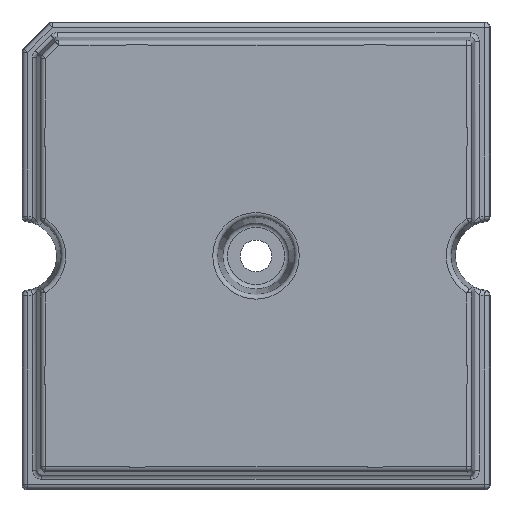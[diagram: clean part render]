
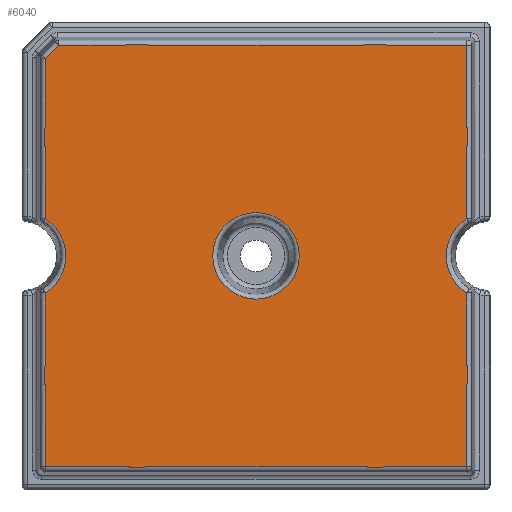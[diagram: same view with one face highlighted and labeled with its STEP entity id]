
A CAD part, top view. The second image highlights one B-rep face of the part: STEP entity #6040.
In plain terms, the highlighted planar face has unit normal (0, 0, 1).
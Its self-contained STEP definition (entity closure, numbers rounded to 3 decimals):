
#551=LINE('',#11641,#886);
#552=LINE('',#11646,#887);
#553=LINE('',#11647,#888);
#554=LINE('',#11651,#889);
#555=LINE('',#11652,#890);
#556=LINE('',#11654,#891);
#557=LINE('',#11655,#892);
#558=LINE('',#11656,#893);
#559=LINE('',#11658,#894);
#560=LINE('',#11659,#895);
#561=LINE('',#11663,#896);
#562=LINE('',#11664,#897);
#563=LINE('',#11666,#898);
#564=LINE('',#11667,#899);
#565=LINE('',#11668,#900);
#886=VECTOR('',#8065,1000.);
#887=VECTOR('',#8072,1000.);
#888=VECTOR('',#8073,1000.);
#889=VECTOR('',#8080,1000.);
#890=VECTOR('',#8081,1000.);
#891=VECTOR('',#8084,1000.);
#892=VECTOR('',#8085,1000.);
#893=VECTOR('',#8086,1000.);
#894=VECTOR('',#8089,1000.);
#895=VECTOR('',#8090,1000.);
#896=VECTOR('',#8097,1000.);
#897=VECTOR('',#8098,1000.);
#898=VECTOR('',#8101,1000.);
#899=VECTOR('',#8102,1000.);
#900=VECTOR('',#8103,1000.);
#1072=PLANE('',#6626);
#1102=CIRCLE('',#6124,9.9);
#1103=CIRCLE('',#6126,9.9);
#1104=CIRCLE('',#6128,9.9);
#1105=CIRCLE('',#6130,9.9);
#1106=CIRCLE('',#6132,9.9);
#1107=CIRCLE('',#6134,9.9);
#1108=CIRCLE('',#6136,9.9);
#1109=CIRCLE('',#6138,9.9);
#1286=CIRCLE('',#6615,4.623);
#1287=CIRCLE('',#6618,4.678);
#1288=CIRCLE('',#6623,4.678);
#2983=ORIENTED_EDGE('',*,*,#3886,.T.);
#2984=ORIENTED_EDGE('',*,*,#3159,.F.);
#2985=ORIENTED_EDGE('',*,*,#3887,.T.);
#2986=ORIENTED_EDGE('',*,*,#3885,.T.);
#2987=ORIENTED_EDGE('',*,*,#3883,.T.);
#2988=ORIENTED_EDGE('',*,*,#3167,.F.);
#2989=ORIENTED_EDGE('',*,*,#3884,.T.);
#2990=ORIENTED_EDGE('',*,*,#3896,.T.);
#2991=ORIENTED_EDGE('',*,*,#3165,.F.);
#2992=ORIENTED_EDGE('',*,*,#3898,.T.);
#2993=ORIENTED_EDGE('',*,*,#3155,.F.);
#2994=ORIENTED_EDGE('',*,*,#3897,.T.);
#2995=ORIENTED_EDGE('',*,*,#3881,.T.);
#2996=ORIENTED_EDGE('',*,*,#3894,.T.);
#2997=ORIENTED_EDGE('',*,*,#3153,.F.);
#2998=ORIENTED_EDGE('',*,*,#3895,.T.);
#2999=ORIENTED_EDGE('',*,*,#3893,.T.);
#3000=ORIENTED_EDGE('',*,*,#3891,.T.);
#3001=ORIENTED_EDGE('',*,*,#3163,.F.);
#3002=ORIENTED_EDGE('',*,*,#3892,.T.);
#3003=ORIENTED_EDGE('',*,*,#3889,.T.);
#3004=ORIENTED_EDGE('',*,*,#3161,.F.);
#3005=ORIENTED_EDGE('',*,*,#3888,.T.);
#3006=ORIENTED_EDGE('',*,*,#3157,.F.);
#3007=ORIENTED_EDGE('',*,*,#3890,.T.);
#3008=ORIENTED_EDGE('',*,*,#3882,.T.);
#3153=EDGE_CURVE('',#3996,#3995,#1102,.F.);
#3155=EDGE_CURVE('',#3998,#3997,#1103,.F.);
#3157=EDGE_CURVE('',#4000,#3999,#1104,.F.);
#3159=EDGE_CURVE('',#4002,#4001,#1105,.F.);
#3161=EDGE_CURVE('',#4004,#4003,#1106,.F.);
#3163=EDGE_CURVE('',#4006,#4005,#1107,.F.);
#3165=EDGE_CURVE('',#4008,#4007,#1108,.F.);
#3167=EDGE_CURVE('',#4010,#4009,#1109,.F.);
#3881=EDGE_CURVE('',#4452,#4451,#551,.T.);
#3882=EDGE_CURVE('',#4458,#4458,#1286,.F.);
#3883=EDGE_CURVE('',#4457,#4009,#552,.T.);
#3884=EDGE_CURVE('',#4010,#4456,#553,.T.);
#3885=EDGE_CURVE('',#4453,#4457,#1287,.F.);
#3886=EDGE_CURVE('',#4454,#4001,#554,.T.);
#3887=EDGE_CURVE('',#4002,#4453,#555,.T.);
#3888=EDGE_CURVE('',#4004,#3999,#556,.T.);
#3889=EDGE_CURVE('',#4455,#4003,#557,.T.);
#3890=EDGE_CURVE('',#4000,#4454,#558,.T.);
#3891=EDGE_CURVE('',#4449,#4005,#559,.T.);
#3892=EDGE_CURVE('',#4006,#4455,#560,.T.);
#3893=EDGE_CURVE('',#4450,#4449,#1288,.F.);
#3894=EDGE_CURVE('',#4451,#3995,#561,.T.);
#3895=EDGE_CURVE('',#3996,#4450,#562,.T.);
#3896=EDGE_CURVE('',#4456,#4007,#563,.T.);
#3897=EDGE_CURVE('',#3998,#4452,#564,.T.);
#3898=EDGE_CURVE('',#4008,#3997,#565,.T.);
#3995=VERTEX_POINT('',#8618);
#3996=VERTEX_POINT('',#8619);
#3997=VERTEX_POINT('',#8626);
#3998=VERTEX_POINT('',#8627);
#3999=VERTEX_POINT('',#8634);
#4000=VERTEX_POINT('',#8635);
#4001=VERTEX_POINT('',#8642);
#4002=VERTEX_POINT('',#8643);
#4003=VERTEX_POINT('',#8650);
#4004=VERTEX_POINT('',#8651);
#4005=VERTEX_POINT('',#8658);
#4006=VERTEX_POINT('',#8659);
#4007=VERTEX_POINT('',#8666);
#4008=VERTEX_POINT('',#8667);
#4009=VERTEX_POINT('',#8674);
#4010=VERTEX_POINT('',#8675);
#4449=VERTEX_POINT('',#11596);
#4450=VERTEX_POINT('',#11600);
#4451=VERTEX_POINT('',#11606);
#4452=VERTEX_POINT('',#11610);
#4453=VERTEX_POINT('',#11616);
#4454=VERTEX_POINT('',#11622);
#4455=VERTEX_POINT('',#11628);
#4456=VERTEX_POINT('',#11632);
#4457=VERTEX_POINT('',#11638);
#4458=VERTEX_POINT('',#11644);
#5167=EDGE_LOOP('',(#2983,#2984,#2985,#2986,#2987,#2988,#2989,#2990,#2991,
#2992,#2993,#2994,#2995,#2996,#2997,#2998,#2999,#3000,#3001,#3002,#3003,
#3004,#3005,#3006,#3007));
#5168=EDGE_LOOP('',(#3008));
#5619=FACE_BOUND('',#5167,.T.);
#5620=FACE_BOUND('',#5168,.T.);
#6040=ADVANCED_FACE('',(#5619,#5620),#1072,.T.);
#6124=AXIS2_PLACEMENT_3D('',#8620,#6807,#6808);
#6126=AXIS2_PLACEMENT_3D('',#8628,#6811,#6812);
#6128=AXIS2_PLACEMENT_3D('',#8636,#6815,#6816);
#6130=AXIS2_PLACEMENT_3D('',#8644,#6819,#6820);
#6132=AXIS2_PLACEMENT_3D('',#8652,#6823,#6824);
#6134=AXIS2_PLACEMENT_3D('',#8660,#6827,#6828);
#6136=AXIS2_PLACEMENT_3D('',#8668,#6831,#6832);
#6138=AXIS2_PLACEMENT_3D('',#8676,#6835,#6836);
#6615=AXIS2_PLACEMENT_3D('',#11643,#8068,#8069);
#6618=AXIS2_PLACEMENT_3D('',#11649,#8076,#8077);
#6623=AXIS2_PLACEMENT_3D('',#11661,#8093,#8094);
#6626=AXIS2_PLACEMENT_3D('',#11669,#8104,#8105);
#6807=DIRECTION('',(0.,0.,1.));
#6808=DIRECTION('',(1.,0.,0.));
#6811=DIRECTION('',(0.,0.,1.));
#6812=DIRECTION('',(1.,0.,0.));
#6815=DIRECTION('',(0.,0.,1.));
#6816=DIRECTION('',(1.,0.,0.));
#6819=DIRECTION('',(0.,0.,1.));
#6820=DIRECTION('',(1.,0.,0.));
#6823=DIRECTION('',(0.,0.,1.));
#6824=DIRECTION('',(1.,0.,0.));
#6827=DIRECTION('',(0.,0.,1.));
#6828=DIRECTION('',(1.,0.,0.));
#6831=DIRECTION('',(0.,0.,1.));
#6832=DIRECTION('',(1.,0.,0.));
#6835=DIRECTION('',(0.,0.,1.));
#6836=DIRECTION('',(1.,0.,0.));
#8065=DIRECTION('',(-0.707,-0.707,0.));
#8068=DIRECTION('',(0.,0.,1.));
#8069=DIRECTION('',(1.,0.,0.));
#8072=DIRECTION('',(0.,1.,0.));
#8073=DIRECTION('',(0.,1.,0.));
#8076=DIRECTION('',(0.,0.,1.));
#8077=DIRECTION('',(1.,0.,0.));
#8080=DIRECTION('',(0.,1.,0.));
#8081=DIRECTION('',(0.,1.,0.));
#8084=DIRECTION('',(1.,0.,0.));
#8085=DIRECTION('',(1.,0.,0.));
#8086=DIRECTION('',(1.,0.,0.));
#8089=DIRECTION('',(0.,-1.,0.));
#8090=DIRECTION('',(0.,-1.,0.));
#8093=DIRECTION('',(0.,0.,1.));
#8094=DIRECTION('',(1.,0.,0.));
#8097=DIRECTION('',(0.,-1.,0.));
#8098=DIRECTION('',(0.,-1.,0.));
#8101=DIRECTION('',(-1.,0.,0.));
#8102=DIRECTION('',(-1.,0.,0.));
#8103=DIRECTION('',(-1.,0.,0.));
#8104=DIRECTION('',(0.,0.,1.));
#8105=DIRECTION('',(0.,-1.,0.));
#8618=CARTESIAN_POINT('',(-22.522,13.937,9.6));
#8619=CARTESIAN_POINT('',(-22.522,11.463,9.6));
#8620=CARTESIAN_POINT('',(-12.7,12.7,9.6));
#8626=CARTESIAN_POINT('',(-11.461,22.522,9.6));
#8627=CARTESIAN_POINT('',(-13.939,22.522,9.6));
#8628=CARTESIAN_POINT('',(-12.7,12.7,9.6));
#8634=CARTESIAN_POINT('',(11.465,-22.522,9.6));
#8635=CARTESIAN_POINT('',(13.935,-22.522,9.6));
#8636=CARTESIAN_POINT('',(12.7,-12.7,9.6));
#8642=CARTESIAN_POINT('',(22.522,-13.937,9.6));
#8643=CARTESIAN_POINT('',(22.522,-11.463,9.6));
#8644=CARTESIAN_POINT('',(12.7,-12.7,9.6));
#8650=CARTESIAN_POINT('',(-13.935,-22.522,9.6));
#8651=CARTESIAN_POINT('',(-11.465,-22.522,9.6));
#8652=CARTESIAN_POINT('',(-12.7,-12.7,9.6));
#8658=CARTESIAN_POINT('',(-22.522,-11.463,9.6));
#8659=CARTESIAN_POINT('',(-22.522,-13.937,9.6));
#8660=CARTESIAN_POINT('',(-12.7,-12.7,9.6));
#8666=CARTESIAN_POINT('',(13.939,22.522,9.6));
#8667=CARTESIAN_POINT('',(11.461,22.522,9.6));
#8668=CARTESIAN_POINT('',(12.7,12.7,9.6));
#8674=CARTESIAN_POINT('',(22.522,11.463,9.6));
#8675=CARTESIAN_POINT('',(22.522,13.937,9.6));
#8676=CARTESIAN_POINT('',(12.7,12.7,9.6));
#11596=CARTESIAN_POINT('',(-22.522,-3.968,9.6));
#11600=CARTESIAN_POINT('',(-22.522,3.968,9.6));
#11606=CARTESIAN_POINT('',(-22.522,21.095,9.6));
#11610=CARTESIAN_POINT('',(-21.095,22.522,9.6));
#11616=CARTESIAN_POINT('',(22.522,-3.968,9.6));
#11622=CARTESIAN_POINT('',(22.522,-22.522,9.6));
#11628=CARTESIAN_POINT('',(-22.522,-22.522,9.6));
#11632=CARTESIAN_POINT('',(22.522,22.522,9.6));
#11638=CARTESIAN_POINT('',(22.522,3.968,9.6));
#11641=CARTESIAN_POINT('',(-21.809,21.809,9.6));
#11643=CARTESIAN_POINT('',(0.,0.,9.6));
#11644=CARTESIAN_POINT('',(4.623,0.,9.6));
#11646=CARTESIAN_POINT('',(22.522,0.,9.6));
#11647=CARTESIAN_POINT('',(22.522,0.,9.6));
#11649=CARTESIAN_POINT('',(25.,0.,9.6));
#11651=CARTESIAN_POINT('',(22.522,0.,9.6));
#11652=CARTESIAN_POINT('',(22.522,0.,9.6));
#11654=CARTESIAN_POINT('',(0.,-22.522,9.6));
#11655=CARTESIAN_POINT('',(0.,-22.522,9.6));
#11656=CARTESIAN_POINT('',(0.,-22.522,9.6));
#11658=CARTESIAN_POINT('',(-22.522,0.,9.6));
#11659=CARTESIAN_POINT('',(-22.522,0.,9.6));
#11661=CARTESIAN_POINT('',(-25.,0.,9.6));
#11663=CARTESIAN_POINT('',(-22.522,0.,9.6));
#11664=CARTESIAN_POINT('',(-22.522,0.,9.6));
#11666=CARTESIAN_POINT('',(0.,22.522,9.6));
#11667=CARTESIAN_POINT('',(0.,22.522,9.6));
#11668=CARTESIAN_POINT('',(0.,22.522,9.6));
#11669=CARTESIAN_POINT('',(0.,0.,9.6));
